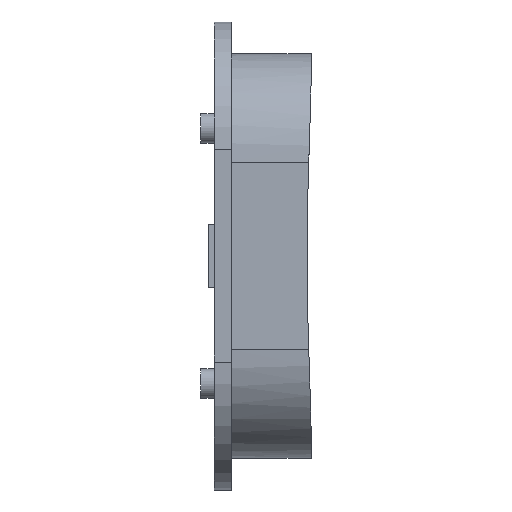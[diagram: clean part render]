
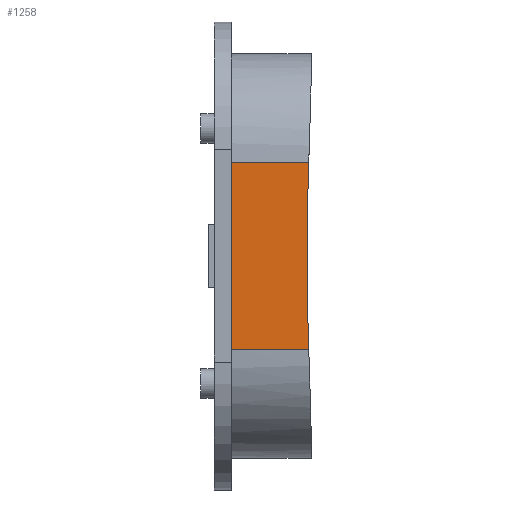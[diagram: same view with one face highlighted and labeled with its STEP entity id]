
A CAD part, top view. The second image highlights one B-rep face of the part: STEP entity #1258.
In plain terms, the highlighted planar face has unit normal (0, 0, 1).
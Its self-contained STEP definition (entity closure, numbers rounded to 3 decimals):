
#44 = PLANE('',#45);
#45 = AXIS2_PLACEMENT_3D('',#46,#47,#48);
#46 = CARTESIAN_POINT('',(40.7,-11.,8.25));
#47 = DIRECTION('',(1.,0.,0.));
#48 = DIRECTION('',(0.,0.,-1.));
#341 = VERTEX_POINT('',#342);
#342 = CARTESIAN_POINT('',(40.7,-4.4,6.5));
#359 = CYLINDRICAL_SURFACE('',#360,5.1);
#360 = AXIS2_PLACEMENT_3D('',#361,#362,#363);
#361 = CARTESIAN_POINT('',(40.9,-4.4,1.4));
#362 = DIRECTION('',(1.,0.,0.));
#363 = DIRECTION('',(0.,0.,1.));
#371 = EDGE_CURVE('',#341,#372,#374,.T.);
#372 = VERTEX_POINT('',#373);
#373 = CARTESIAN_POINT('',(40.7,4.4,6.5));
#374 = SURFACE_CURVE('',#375,(#379,#386),.PCURVE_S1.);
#375 = LINE('',#376,#377);
#376 = CARTESIAN_POINT('',(40.7,-9.5,6.5));
#377 = VECTOR('',#378,1.);
#378 = DIRECTION('',(0.,1.,0.));
#379 = PCURVE('',#44,#380);
#380 = DEFINITIONAL_REPRESENTATION('',(#381),#385);
#381 = LINE('',#382,#383);
#382 = CARTESIAN_POINT('',(1.75,1.5));
#383 = VECTOR('',#384,1.);
#384 = DIRECTION('',(0.,1.));
#385 = ( GEOMETRIC_REPRESENTATION_CONTEXT(2) 
PARAMETRIC_REPRESENTATION_CONTEXT() REPRESENTATION_CONTEXT('2D SPACE',''
  ) );
#386 = PCURVE('',#387,#392);
#387 = PLANE('',#388);
#388 = AXIS2_PLACEMENT_3D('',#389,#390,#391);
#389 = CARTESIAN_POINT('',(40.9,-9.5,6.5));
#390 = DIRECTION('',(0.,0.,-1.));
#391 = DIRECTION('',(1.,0.,0.));
#392 = DEFINITIONAL_REPRESENTATION('',(#393),#397);
#393 = LINE('',#394,#395);
#394 = CARTESIAN_POINT('',(-0.2,0.));
#395 = VECTOR('',#396,1.);
#396 = DIRECTION('',(0.,-1.));
#397 = ( GEOMETRIC_REPRESENTATION_CONTEXT(2) 
PARAMETRIC_REPRESENTATION_CONTEXT() REPRESENTATION_CONTEXT('2D SPACE',''
  ) );
#420 = CYLINDRICAL_SURFACE('',#421,5.1);
#421 = AXIS2_PLACEMENT_3D('',#422,#423,#424);
#422 = CARTESIAN_POINT('',(40.9,4.4,1.4));
#423 = DIRECTION('',(1.,0.,0.));
#424 = DIRECTION('',(0.,0.,1.));
#1099 = EDGE_CURVE('',#341,#1100,#1102,.T.);
#1100 = VERTEX_POINT('',#1101);
#1101 = CARTESIAN_POINT('',(44.337,-4.4,6.5));
#1102 = SURFACE_CURVE('',#1103,(#1107,#1114),.PCURVE_S1.);
#1103 = LINE('',#1104,#1105);
#1104 = CARTESIAN_POINT('',(40.7,-4.4,6.5));
#1105 = VECTOR('',#1106,1.);
#1106 = DIRECTION('',(1.,0.,0.));
#1107 = PCURVE('',#359,#1108);
#1108 = DEFINITIONAL_REPRESENTATION('',(#1109),#1113);
#1109 = LINE('',#1110,#1111);
#1110 = CARTESIAN_POINT('',(0.,-0.2));
#1111 = VECTOR('',#1112,1.);
#1112 = DIRECTION('',(0.,1.));
#1113 = ( GEOMETRIC_REPRESENTATION_CONTEXT(2) 
PARAMETRIC_REPRESENTATION_CONTEXT() REPRESENTATION_CONTEXT('2D SPACE',''
  ) );
#1114 = PCURVE('',#387,#1115);
#1115 = DEFINITIONAL_REPRESENTATION('',(#1116),#1120);
#1116 = LINE('',#1117,#1118);
#1117 = CARTESIAN_POINT('',(-0.2,-5.1));
#1118 = VECTOR('',#1119,1.);
#1119 = DIRECTION('',(1.,0.));
#1120 = ( GEOMETRIC_REPRESENTATION_CONTEXT(2) 
PARAMETRIC_REPRESENTATION_CONTEXT() REPRESENTATION_CONTEXT('2D SPACE',''
  ) );
#1218 = SPHERICAL_SURFACE('',#1219,130.);
#1219 = AXIS2_PLACEMENT_3D('',#1220,#1221,#1222);
#1220 = CARTESIAN_POINT('',(174.1,0.,0.));
#1221 = DIRECTION('',(1.,0.,0.));
#1222 = DIRECTION('',(-0.,1.,0.));
#1258 = ADVANCED_FACE('',(#1259),#387,.F.);
#1259 = FACE_BOUND('',#1260,.F.);
#1260 = EDGE_LOOP('',(#1261,#1312,#1313,#1314));
#1261 = ORIENTED_EDGE('',*,*,#1262,.F.);
#1262 = EDGE_CURVE('',#1100,#1263,#1265,.T.);
#1263 = VERTEX_POINT('',#1264);
#1264 = CARTESIAN_POINT('',(44.337,4.4,6.5));
#1265 = SURFACE_CURVE('',#1266,(#1271,#1278),.PCURVE_S1.);
#1266 = CIRCLE('',#1267,129.837);
#1267 = AXIS2_PLACEMENT_3D('',#1268,#1269,#1270);
#1268 = CARTESIAN_POINT('',(174.1,0.,6.5));
#1269 = DIRECTION('',(0.,0.,-1.));
#1270 = DIRECTION('',(1.,0.,0.));
#1271 = PCURVE('',#387,#1272);
#1272 = DEFINITIONAL_REPRESENTATION('',(#1273),#1277);
#1273 = CIRCLE('',#1274,129.837);
#1274 = AXIS2_PLACEMENT_2D('',#1275,#1276);
#1275 = CARTESIAN_POINT('',(133.2,-9.5));
#1276 = DIRECTION('',(1.,0.));
#1277 = ( GEOMETRIC_REPRESENTATION_CONTEXT(2) 
PARAMETRIC_REPRESENTATION_CONTEXT() REPRESENTATION_CONTEXT('2D SPACE',''
  ) );
#1278 = PCURVE('',#1218,#1279);
#1279 = DEFINITIONAL_REPRESENTATION('',(#1280),#1311);
#1280 = B_SPLINE_CURVE_WITH_KNOTS('',8,(#1281,#1282,#1283,#1284,#1285,
    #1286,#1287,#1288,#1289,#1290,#1291,#1292,#1293,#1294,#1295,#1296,
    #1297,#1298,#1299,#1300,#1301,#1302,#1303,#1304,#1305,#1306,#1307,
    #1308,#1309,#1310),.UNSPECIFIED.,.F.,.F.,(9,7,7,7,9),(3.108,
    3.125,3.137,3.156,3.175),
  .UNSPECIFIED.);
#1281 = CARTESIAN_POINT('',(2.166,-1.51));
#1282 = CARTESIAN_POINT('',(2.137,-1.512));
#1283 = CARTESIAN_POINT('',(2.107,-1.513));
#1284 = CARTESIAN_POINT('',(2.075,-1.514));
#1285 = CARTESIAN_POINT('',(2.042,-1.515));
#1286 = CARTESIAN_POINT('',(2.008,-1.516));
#1287 = CARTESIAN_POINT('',(1.972,-1.517));
#1288 = CARTESIAN_POINT('',(1.935,-1.517));
#1289 = CARTESIAN_POINT('',(1.869,-1.518));
#1290 = CARTESIAN_POINT('',(1.84,-1.519));
#1291 = CARTESIAN_POINT('',(1.81,-1.519));
#1292 = CARTESIAN_POINT('',(1.78,-1.52));
#1293 = CARTESIAN_POINT('',(1.749,-1.52));
#1294 = CARTESIAN_POINT('',(1.718,-1.52));
#1295 = CARTESIAN_POINT('',(1.687,-1.52));
#1296 = CARTESIAN_POINT('',(1.608,-1.521));
#1297 = CARTESIAN_POINT('',(1.56,-1.521));
#1298 = CARTESIAN_POINT('',(1.512,-1.521));
#1299 = CARTESIAN_POINT('',(1.465,-1.521));
#1300 = CARTESIAN_POINT('',(1.418,-1.52));
#1301 = CARTESIAN_POINT('',(1.372,-1.52));
#1302 = CARTESIAN_POINT('',(1.327,-1.519));
#1303 = CARTESIAN_POINT('',(1.239,-1.518));
#1304 = CARTESIAN_POINT('',(1.197,-1.517));
#1305 = CARTESIAN_POINT('',(1.156,-1.516));
#1306 = CARTESIAN_POINT('',(1.116,-1.515));
#1307 = CARTESIAN_POINT('',(1.079,-1.514));
#1308 = CARTESIAN_POINT('',(1.043,-1.513));
#1309 = CARTESIAN_POINT('',(1.008,-1.512));
#1310 = CARTESIAN_POINT('',(0.976,-1.51));
#1311 = ( GEOMETRIC_REPRESENTATION_CONTEXT(2) 
PARAMETRIC_REPRESENTATION_CONTEXT() REPRESENTATION_CONTEXT('2D SPACE',''
  ) );
#1312 = ORIENTED_EDGE('',*,*,#1099,.F.);
#1313 = ORIENTED_EDGE('',*,*,#371,.T.);
#1314 = ORIENTED_EDGE('',*,*,#1315,.F.);
#1315 = EDGE_CURVE('',#1263,#372,#1316,.T.);
#1316 = SURFACE_CURVE('',#1317,(#1321,#1328),.PCURVE_S1.);
#1317 = LINE('',#1318,#1319);
#1318 = CARTESIAN_POINT('',(44.337,4.4,6.5));
#1319 = VECTOR('',#1320,1.);
#1320 = DIRECTION('',(-1.,0.,0.));
#1321 = PCURVE('',#387,#1322);
#1322 = DEFINITIONAL_REPRESENTATION('',(#1323),#1327);
#1323 = LINE('',#1324,#1325);
#1324 = CARTESIAN_POINT('',(3.437,-13.9));
#1325 = VECTOR('',#1326,1.);
#1326 = DIRECTION('',(-1.,-0.));
#1327 = ( GEOMETRIC_REPRESENTATION_CONTEXT(2) 
PARAMETRIC_REPRESENTATION_CONTEXT() REPRESENTATION_CONTEXT('2D SPACE',''
  ) );
#1328 = PCURVE('',#420,#1329);
#1329 = DEFINITIONAL_REPRESENTATION('',(#1330),#1334);
#1330 = LINE('',#1331,#1332);
#1331 = CARTESIAN_POINT('',(6.283,3.437));
#1332 = VECTOR('',#1333,1.);
#1333 = DIRECTION('',(-0.,-1.));
#1334 = ( GEOMETRIC_REPRESENTATION_CONTEXT(2) 
PARAMETRIC_REPRESENTATION_CONTEXT() REPRESENTATION_CONTEXT('2D SPACE',''
  ) );
